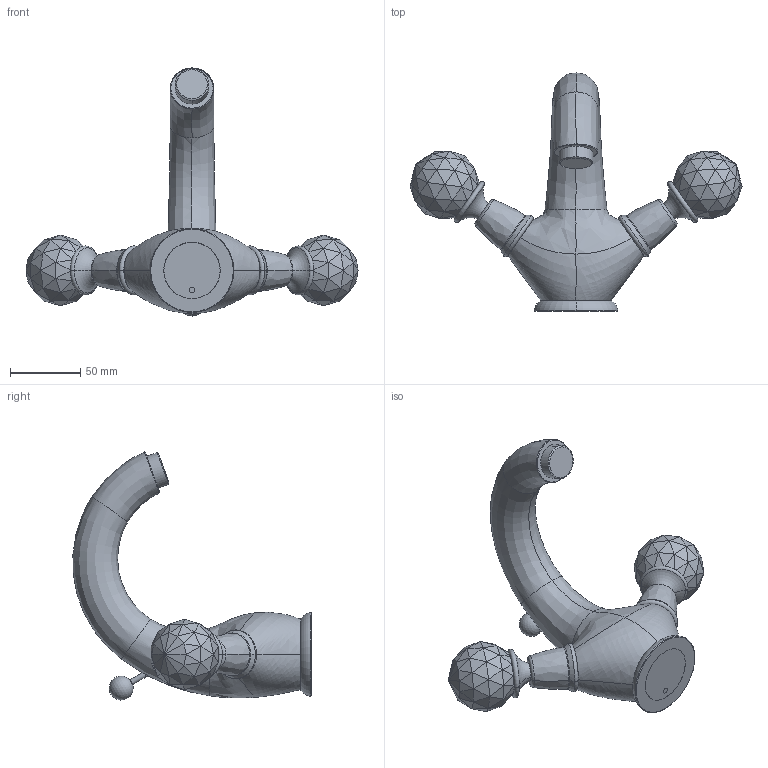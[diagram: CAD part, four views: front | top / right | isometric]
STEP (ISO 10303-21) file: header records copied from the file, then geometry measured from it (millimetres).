
FILE_DESCRIPTION((''),'2;1');
FILE_NAME('F5091_2C_FILE_3D','2013-07-18T',('ivanv'),(''),'PRO/ENGINEER BY PARAMETRIC TECHNOLOGY CORPORATION, 2012130','PRO/ENGINEER BY PARAMETRIC TECHNOLOGY CORPORATION, 2012130','');
FILE_SCHEMA(('CONFIG_CONTROL_DESIGN'));
Length unit declared in the file: millimetre
Products named in the file (1): F5091_2C_FILE_3D
Bounding box: 236.06 x 169.31 x 176.36 mm (x, y, z)
Volume: 578041.2 mm3; surface area: 78956.7 mm2
Topology: 3 solids, 3 shells, 375 faces, 675 edges, 317 vertices
Faces by surface type: plane 263, cylinder 36, torus 28, bspline 28, cone 18, sphere 2
Entity records: 16050 total; most frequent: CARTESIAN_POINT 9077, DIRECTION 1456, ORIENTED_EDGE 1338, EDGE_CURVE 669, AXIS2_PLACEMENT_3D 508, VECTOR 440, LINE 440, EDGE_LOOP 392
